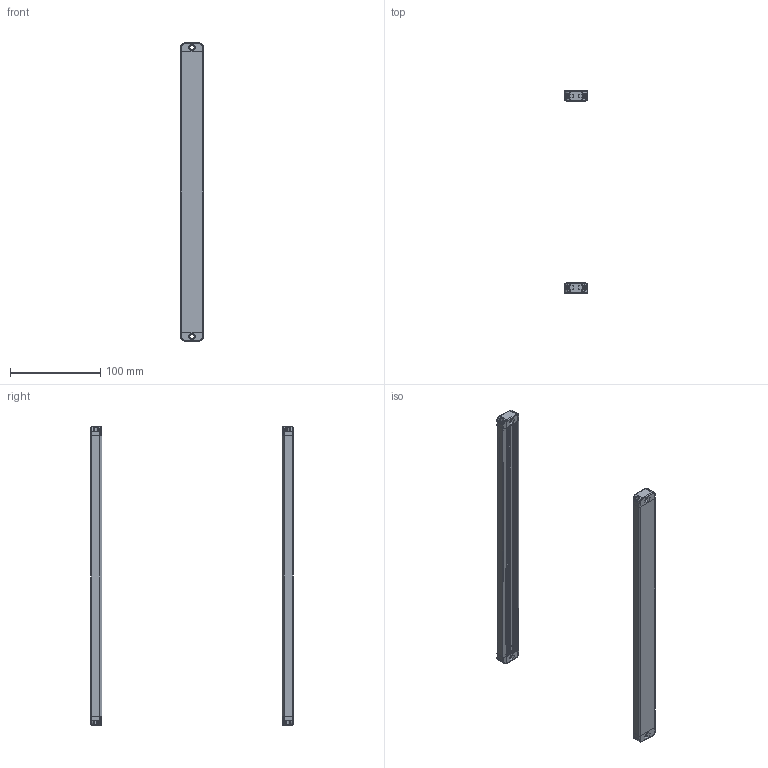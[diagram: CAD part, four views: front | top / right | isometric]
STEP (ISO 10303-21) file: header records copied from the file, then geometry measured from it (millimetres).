
FILE_DESCRIPTION (( 'STEP AP203' ), '1' );
FILE_NAME ('ZDB1620-310.STEP', '2022-08-31T03:09:44', ( 'Windows 蚚誧' ), ( 'Organization' ), 'SwSTEP 2.0', 'SolidWorks 2020', '' );
FILE_SCHEMA (( 'CONFIG_CONTROL_DESIGN' ));
Length unit declared in the file: millimetre
Products named in the file (4): 傷裔衵; 傷裔酘諉彶; 媼啃3臏倰第; ZDB1620-310
Assembly tree (6 placements, depth 2):
  ZDB1620-310
    傷裔衵  x2
    傷裔酘諉彶  x2
    媼啃3臏倰第  x2
Bounding box: 25 x 224 x 330 mm (x, y, z)
Volume: 64724.7 mm3; surface area: 104070.1 mm2
Topology: 6 solids, 6 shells, 650 faces, 1758 edges, 1124 vertices
Faces by surface type: plane 406, cylinder 188, torus 32, bspline 16, sphere 8
Entity records: 11427 total; most frequent: CARTESIAN_POINT 2721, ORIENTED_EDGE 1750, DIRECTION 1687, EDGE_CURVE 875, VECTOR 631, LINE 631, VERTEX_POINT 562, AXIS2_PLACEMENT_3D 528
